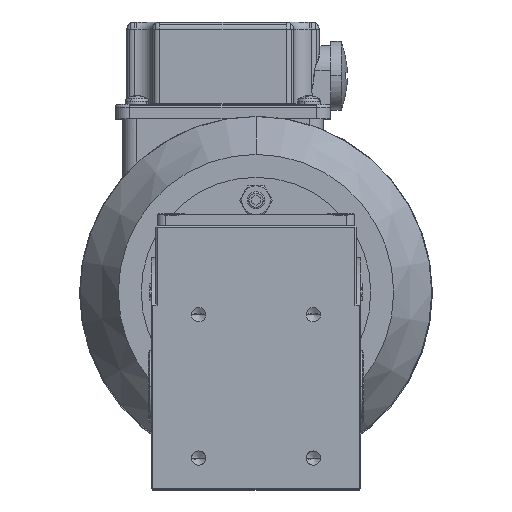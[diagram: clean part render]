
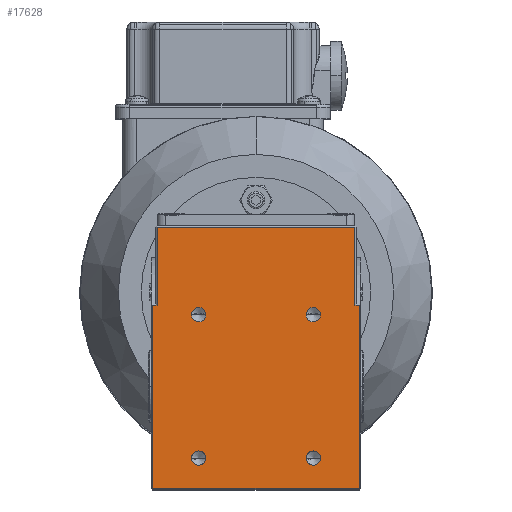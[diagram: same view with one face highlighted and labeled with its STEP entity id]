
A CAD part, top view. The second image highlights one B-rep face of the part: STEP entity #17628.
In plain terms, the highlighted planar face has unit normal (0, 0, 1).
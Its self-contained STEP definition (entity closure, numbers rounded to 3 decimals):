
#177 = VERTEX_POINT ( 'NONE', #10567 ) ;
#297 = EDGE_CURVE ( 'NONE', #9096, #21500, #12429, .T. ) ;
#406 = DIRECTION ( 'NONE',  ( 1., 0., 0. ) ) ;
#436 = LINE ( 'NONE', #12062, #24119 ) ;
#505 = ORIENTED_EDGE ( 'NONE', *, *, #13040, .F. ) ;
#745 = FACE_BOUND ( 'NONE', #12396, .T. ) ;
#764 = VERTEX_POINT ( 'NONE', #20704 ) ;
#1001 = FACE_BOUND ( 'NONE', #20594, .T. ) ;
#2279 = VECTOR ( 'NONE', #3692, 1000. ) ;
#2384 = CARTESIAN_POINT ( 'NONE',  ( -34.5, 28.284, 35. ) ) ;
#2454 = VERTEX_POINT ( 'NONE', #18044 ) ;
#2656 = VERTEX_POINT ( 'NONE', #14478 ) ;
#2812 = CARTESIAN_POINT ( 'NONE',  ( -36., 56., 35. ) ) ;
#2828 = CARTESIAN_POINT ( 'NONE',  ( -42.5, 56., 35. ) ) ;
#3269 = LINE ( 'NONE', #8769, #21425 ) ;
#3371 = CARTESIAN_POINT ( 'NONE',  ( -22.5, 25., 35. ) ) ;
#3500 = CIRCLE ( 'NONE', #3885, 2.5 ) ;
#3598 = CARTESIAN_POINT ( 'NONE',  ( -22.5, -25., 35. ) ) ;
#3692 = DIRECTION ( 'NONE',  ( 0., -1., 0. ) ) ;
#3714 = DIRECTION ( 'NONE',  ( 1., 0., 0. ) ) ;
#3885 = AXIS2_PLACEMENT_3D ( 'NONE', #10460, #7030, #12326 ) ;
#4000 = EDGE_CURVE ( 'NONE', #2454, #4530, #5409, .T. ) ;
#4101 = VERTEX_POINT ( 'NONE', #2384 ) ;
#4172 = CARTESIAN_POINT ( 'NONE',  ( -34.5, 56., 35. ) ) ;
#4530 = VERTEX_POINT ( 'NONE', #9940 ) ;
#4735 = VERTEX_POINT ( 'NONE', #5599 ) ;
#4807 = VECTOR ( 'NONE', #4817, 1000. ) ;
#4817 = DIRECTION ( 'NONE',  ( 0., 1., 0. ) ) ;
#4970 = EDGE_CURVE ( 'NONE', #24154, #22891, #3269, .T. ) ;
#5131 = CARTESIAN_POINT ( 'NONE',  ( 20., -25., 35. ) ) ;
#5229 = ORIENTED_EDGE ( 'NONE', *, *, #7764, .T. ) ;
#5263 = EDGE_CURVE ( 'NONE', #4735, #17586, #3500, .T. ) ;
#5409 = LINE ( 'NONE', #20551, #7830 ) ;
#5599 = CARTESIAN_POINT ( 'NONE',  ( 17.5, -25., 35. ) ) ;
#5975 = ORIENTED_EDGE ( 'NONE', *, *, #22265, .F. ) ;
#5992 = CARTESIAN_POINT ( 'NONE',  ( -36., -35.5, 35. ) ) ;
#6393 = CARTESIAN_POINT ( 'NONE',  ( 35., 28.284, 35. ) ) ;
#6429 = DIRECTION ( 'NONE',  ( 0., 0., 1. ) ) ;
#6509 = DIRECTION ( 'NONE',  ( 1., 0., 0. ) ) ;
#6615 = CARTESIAN_POINT ( 'NONE',  ( 36., 28.284, 35. ) ) ;
#6651 = DIRECTION ( 'NONE',  ( 0., 0., 1. ) ) ;
#7030 = DIRECTION ( 'NONE',  ( 0., 0., 1. ) ) ;
#7070 = EDGE_CURVE ( 'NONE', #177, #18645, #7091, .T. ) ;
#7091 = CIRCLE ( 'NONE', #22512, 2.5 ) ;
#7369 = EDGE_CURVE ( 'NONE', #22186, #4101, #17388, .T. ) ;
#7398 = EDGE_LOOP ( 'NONE', ( #15055, #21324, #20211, #22068, #8775, #23523, #10007, #5229 ) ) ;
#7615 = VECTOR ( 'NONE', #10595, 1000. ) ;
#7687 = ORIENTED_EDGE ( 'NONE', *, *, #16488, .F. ) ;
#7764 = EDGE_CURVE ( 'NONE', #4530, #4101, #21116, .T. ) ;
#7824 = EDGE_CURVE ( 'NONE', #22186, #19767, #15617, .T. ) ;
#7830 = VECTOR ( 'NONE', #18933, 1000. ) ;
#8036 = CIRCLE ( 'NONE', #9216, 2.5 ) ;
#8110 = CARTESIAN_POINT ( 'NONE',  ( -35., 28.284, 35. ) ) ;
#8148 = CARTESIAN_POINT ( 'NONE',  ( 34.5, 28.284, 35. ) ) ;
#8328 = PLANE ( 'NONE',  #15531 ) ;
#8493 = EDGE_CURVE ( 'NONE', #2656, #764, #12283, .T. ) ;
#8566 = DIRECTION ( 'NONE',  ( 0., 1., 0. ) ) ;
#8769 = CARTESIAN_POINT ( 'NONE',  ( 36., 56., 35. ) ) ;
#8775 = ORIENTED_EDGE ( 'NONE', *, *, #15732, .T. ) ;
#9096 = VERTEX_POINT ( 'NONE', #3371 ) ;
#9209 = CARTESIAN_POINT ( 'NONE',  ( -20., 25., 35. ) ) ;
#9216 = AXIS2_PLACEMENT_3D ( 'NONE', #21939, #14359, #12498 ) ;
#9324 = DIRECTION ( 'NONE',  ( 0., 0., 1. ) ) ;
#9356 = DIRECTION ( 'NONE',  ( 1., 0., 0. ) ) ;
#9901 = AXIS2_PLACEMENT_3D ( 'NONE', #5131, #10846, #9356 ) ;
#9940 = CARTESIAN_POINT ( 'NONE',  ( -34.5, 55.5, 35. ) ) ;
#10007 = ORIENTED_EDGE ( 'NONE', *, *, #4000, .T. ) ;
#10460 = CARTESIAN_POINT ( 'NONE',  ( 20., -25., 35. ) ) ;
#10567 = CARTESIAN_POINT ( 'NONE',  ( -17.5, -25., 35. ) ) ;
#10595 = DIRECTION ( 'NONE',  ( -1., 0., 0. ) ) ;
#10846 = DIRECTION ( 'NONE',  ( 0., 0., 1. ) ) ;
#10956 = DIRECTION ( 'NONE',  ( 0., 0., 1. ) ) ;
#11438 = CARTESIAN_POINT ( 'NONE',  ( 22.5, -25., 35. ) ) ;
#12004 = ORIENTED_EDGE ( 'NONE', *, *, #7070, .F. ) ;
#12062 = CARTESIAN_POINT ( 'NONE',  ( -42.5, -35.5, 35. ) ) ;
#12074 = CARTESIAN_POINT ( 'NONE',  ( -20., 25., 35. ) ) ;
#12280 = VECTOR ( 'NONE', #406, 1000. ) ;
#12283 = CIRCLE ( 'NONE', #19029, 2.5 ) ;
#12326 = DIRECTION ( 'NONE',  ( 1., 0., 0. ) ) ;
#12396 = EDGE_LOOP ( 'NONE', ( #12004, #505 ) ) ;
#12429 = CIRCLE ( 'NONE', #20749, 2.5 ) ;
#12498 = DIRECTION ( 'NONE',  ( 1., 0., 0. ) ) ;
#12617 = AXIS2_PLACEMENT_3D ( 'NONE', #20395, #10956, #3714 ) ;
#12788 = ORIENTED_EDGE ( 'NONE', *, *, #297, .F. ) ;
#13040 = EDGE_CURVE ( 'NONE', #18645, #177, #20963, .T. ) ;
#13137 = CARTESIAN_POINT ( 'NONE',  ( -17.5, 25., 35. ) ) ;
#13363 = EDGE_CURVE ( 'NONE', #21500, #9096, #17224, .T. ) ;
#14321 = ORIENTED_EDGE ( 'NONE', *, *, #8493, .F. ) ;
#14359 = DIRECTION ( 'NONE',  ( 0., 0., 1. ) ) ;
#14478 = CARTESIAN_POINT ( 'NONE',  ( 17.5, 25., 35. ) ) ;
#14533 = DIRECTION ( 'NONE',  ( 1., 0., 0. ) ) ;
#14797 = VECTOR ( 'NONE', #19706, 1000. ) ;
#15055 = ORIENTED_EDGE ( 'NONE', *, *, #7369, .F. ) ;
#15531 = AXIS2_PLACEMENT_3D ( 'NONE', #2828, #23608, #8566 ) ;
#15596 = VERTEX_POINT ( 'NONE', #8148 ) ;
#15617 = LINE ( 'NONE', #2812, #14797 ) ;
#15689 = ORIENTED_EDGE ( 'NONE', *, *, #13363, .F. ) ;
#15732 = EDGE_CURVE ( 'NONE', #22891, #15596, #23409, .T. ) ;
#15928 = DIRECTION ( 'NONE',  ( 1., 0., 0. ) ) ;
#15997 = FACE_OUTER_BOUND ( 'NONE', #7398, .T. ) ;
#16035 = EDGE_LOOP ( 'NONE', ( #15689, #12788 ) ) ;
#16488 = EDGE_CURVE ( 'NONE', #764, #2656, #8036, .T. ) ;
#17224 = CIRCLE ( 'NONE', #22373, 2.5 ) ;
#17388 = LINE ( 'NONE', #8110, #12280 ) ;
#17414 = DIRECTION ( 'NONE',  ( 0., 0., 1. ) ) ;
#17586 = VERTEX_POINT ( 'NONE', #11438 ) ;
#17628 = ADVANCED_FACE ( 'NONE', ( #23238, #1001, #21359, #745, #15997 ), #8328, .F. ) ;
#17727 = EDGE_CURVE ( 'NONE', #15596, #2454, #21850, .T. ) ;
#18044 = CARTESIAN_POINT ( 'NONE',  ( 34.5, 55.5, 35. ) ) ;
#18566 = CARTESIAN_POINT ( 'NONE',  ( 36., -35.5, 35. ) ) ;
#18645 = VERTEX_POINT ( 'NONE', #3598 ) ;
#18933 = DIRECTION ( 'NONE',  ( -1., 0., 0. ) ) ;
#19029 = AXIS2_PLACEMENT_3D ( 'NONE', #19689, #6429, #21815 ) ;
#19689 = CARTESIAN_POINT ( 'NONE',  ( 20., 25., 35. ) ) ;
#19706 = DIRECTION ( 'NONE',  ( 0., -1., 0. ) ) ;
#19725 = CARTESIAN_POINT ( 'NONE',  ( 34.5, 56., 35. ) ) ;
#19767 = VERTEX_POINT ( 'NONE', #5992 ) ;
#20153 = CARTESIAN_POINT ( 'NONE',  ( -36., 28.284, 35. ) ) ;
#20211 = ORIENTED_EDGE ( 'NONE', *, *, #21004, .T. ) ;
#20395 = CARTESIAN_POINT ( 'NONE',  ( -20., -25., 35. ) ) ;
#20551 = CARTESIAN_POINT ( 'NONE',  ( -42.5, 55.5, 35. ) ) ;
#20556 = DIRECTION ( 'NONE',  ( 0., 1., 0. ) ) ;
#20594 = EDGE_LOOP ( 'NONE', ( #7687, #14321 ) ) ;
#20704 = CARTESIAN_POINT ( 'NONE',  ( 22.5, 25., 35. ) ) ;
#20749 = AXIS2_PLACEMENT_3D ( 'NONE', #12074, #6651, #15928 ) ;
#20865 = ORIENTED_EDGE ( 'NONE', *, *, #5263, .F. ) ;
#20915 = CARTESIAN_POINT ( 'NONE',  ( -20., -25., 35. ) ) ;
#20963 = CIRCLE ( 'NONE', #12617, 2.5 ) ;
#21004 = EDGE_CURVE ( 'NONE', #19767, #24154, #436, .T. ) ;
#21116 = LINE ( 'NONE', #4172, #2279 ) ;
#21324 = ORIENTED_EDGE ( 'NONE', *, *, #7824, .T. ) ;
#21359 = FACE_BOUND ( 'NONE', #23892, .T. ) ;
#21425 = VECTOR ( 'NONE', #20556, 1000. ) ;
#21500 = VERTEX_POINT ( 'NONE', #13137 ) ;
#21815 = DIRECTION ( 'NONE',  ( 1., 0., 0. ) ) ;
#21850 = LINE ( 'NONE', #19725, #4807 ) ;
#21939 = CARTESIAN_POINT ( 'NONE',  ( 20., 25., 35. ) ) ;
#22068 = ORIENTED_EDGE ( 'NONE', *, *, #4970, .T. ) ;
#22186 = VERTEX_POINT ( 'NONE', #20153 ) ;
#22265 = EDGE_CURVE ( 'NONE', #17586, #4735, #23406, .T. ) ;
#22373 = AXIS2_PLACEMENT_3D ( 'NONE', #9209, #9324, #14533 ) ;
#22512 = AXIS2_PLACEMENT_3D ( 'NONE', #20915, #17414, #22796 ) ;
#22796 = DIRECTION ( 'NONE',  ( 1., 0., 0. ) ) ;
#22891 = VERTEX_POINT ( 'NONE', #6615 ) ;
#23238 = FACE_BOUND ( 'NONE', #16035, .T. ) ;
#23406 = CIRCLE ( 'NONE', #9901, 2.5 ) ;
#23409 = LINE ( 'NONE', #6393, #7615 ) ;
#23523 = ORIENTED_EDGE ( 'NONE', *, *, #17727, .T. ) ;
#23608 = DIRECTION ( 'NONE',  ( 0., 0., -1. ) ) ;
#23892 = EDGE_LOOP ( 'NONE', ( #5975, #20865 ) ) ;
#24119 = VECTOR ( 'NONE', #6509, 1000. ) ;
#24154 = VERTEX_POINT ( 'NONE', #18566 ) ;
